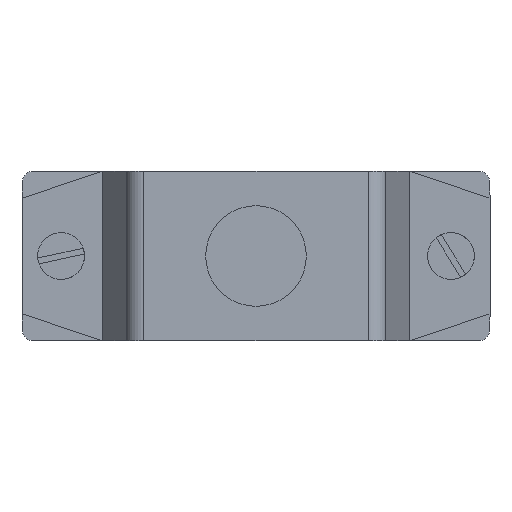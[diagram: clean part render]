
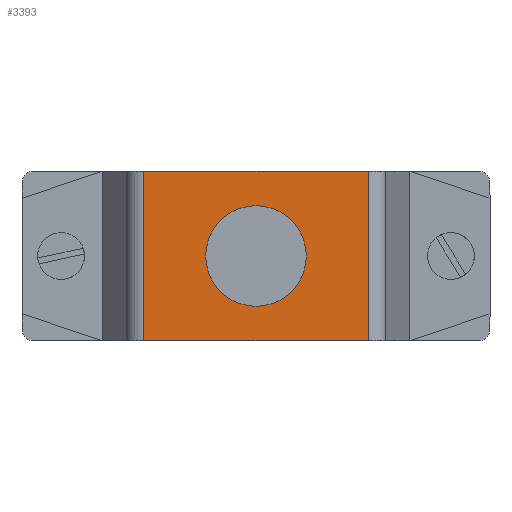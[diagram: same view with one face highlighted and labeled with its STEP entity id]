
A CAD part, front view. The second image highlights one B-rep face of the part: STEP entity #3393.
In plain terms, the highlighted planar face has unit normal (0, -1, 0).
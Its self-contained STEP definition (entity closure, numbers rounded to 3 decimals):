
#91 = CARTESIAN_POINT ( 'NONE',  ( 9.6, -29.1, 14.5 ) ) ;
#99 = CARTESIAN_POINT ( 'NONE',  ( 0., -29.1, 0. ) ) ;
#449 = LINE ( 'NONE', #6257, #1672 ) ;
#552 = FACE_BOUND ( 'NONE', #1201, .T. ) ;
#629 = VECTOR ( 'NONE', #2668, 1000. ) ;
#650 = DIRECTION ( 'NONE',  ( 0., 0., -1. ) ) ;
#747 = VERTEX_POINT ( 'NONE', #1555 ) ;
#1201 = EDGE_LOOP ( 'NONE', ( #5500, #6102 ) ) ;
#1220 = DIRECTION ( 'NONE',  ( -1., 0., 0. ) ) ;
#1310 = EDGE_LOOP ( 'NONE', ( #3784, #1868, #2394, #5894 ) ) ;
#1555 = CARTESIAN_POINT ( 'NONE',  ( 9.6, -29.1, 0. ) ) ;
#1585 = VERTEX_POINT ( 'NONE', #1702 ) ;
#1672 = VECTOR ( 'NONE', #2421, 1000. ) ;
#1687 = CARTESIAN_POINT ( 'NONE',  ( 0., -29.1, 2.95 ) ) ;
#1688 = FACE_OUTER_BOUND ( 'NONE', #1310, .T. ) ;
#1702 = CARTESIAN_POINT ( 'NONE',  ( -9.6, -29.1, 0. ) ) ;
#1799 = EDGE_CURVE ( 'NONE', #3373, #1585, #5458, .T. ) ;
#1868 = ORIENTED_EDGE ( 'NONE', *, *, #1799, .T. ) ;
#2009 = CARTESIAN_POINT ( 'NONE',  ( -9.6, -29.1, 0. ) ) ;
#2031 = EDGE_CURVE ( 'NONE', #2363, #3919, #5724, .T. ) ;
#2363 = VERTEX_POINT ( 'NONE', #1687 ) ;
#2394 = ORIENTED_EDGE ( 'NONE', *, *, #2492, .T. ) ;
#2421 = DIRECTION ( 'NONE',  ( 1., 0., 0. ) ) ;
#2426 = DIRECTION ( 'NONE',  ( 0., 0., -1. ) ) ;
#2492 = EDGE_CURVE ( 'NONE', #1585, #747, #449, .T. ) ;
#2576 = LINE ( 'NONE', #4055, #5387 ) ;
#2668 = DIRECTION ( 'NONE',  ( 0., 0., 1. ) ) ;
#2726 = CARTESIAN_POINT ( 'NONE',  ( 0., -29.1, 7.25 ) ) ;
#2955 = VECTOR ( 'NONE', #3972, 1000. ) ;
#3088 = CARTESIAN_POINT ( 'NONE',  ( 0., -29.1, 11.55 ) ) ;
#3373 = VERTEX_POINT ( 'NONE', #4942 ) ;
#3393 = ADVANCED_FACE ( 'NONE', ( #552, #1688 ), #3609, .T. ) ;
#3609 = PLANE ( 'NONE',  #4619 ) ;
#3784 = ORIENTED_EDGE ( 'NONE', *, *, #5574, .T. ) ;
#3824 = CIRCLE ( 'NONE', #4752, 4.3 ) ;
#3919 = VERTEX_POINT ( 'NONE', #3088 ) ;
#3937 = CARTESIAN_POINT ( 'NONE',  ( 0., -29.1, 7.25 ) ) ;
#3972 = DIRECTION ( 'NONE',  ( 0., 0., -1. ) ) ;
#4055 = CARTESIAN_POINT ( 'NONE',  ( -11.1, -29.1, 14.5 ) ) ;
#4163 = VERTEX_POINT ( 'NONE', #4550 ) ;
#4213 = DIRECTION ( 'NONE',  ( 0., 0., -1. ) ) ;
#4245 = EDGE_CURVE ( 'NONE', #3919, #2363, #3824, .T. ) ;
#4550 = CARTESIAN_POINT ( 'NONE',  ( 9.6, -29.1, 14.5 ) ) ;
#4578 = LINE ( 'NONE', #91, #629 ) ;
#4619 = AXIS2_PLACEMENT_3D ( 'NONE', #99, #5075, #650 ) ;
#4703 = AXIS2_PLACEMENT_3D ( 'NONE', #3937, #5415, #2426 ) ;
#4752 = AXIS2_PLACEMENT_3D ( 'NONE', #2726, #5121, #4213 ) ;
#4942 = CARTESIAN_POINT ( 'NONE',  ( -9.6, -29.1, 14.5 ) ) ;
#5075 = DIRECTION ( 'NONE',  ( 0., -1., 0. ) ) ;
#5121 = DIRECTION ( 'NONE',  ( 0., -1., 0. ) ) ;
#5387 = VECTOR ( 'NONE', #1220, 1000. ) ;
#5415 = DIRECTION ( 'NONE',  ( 0., -1., 0. ) ) ;
#5458 = LINE ( 'NONE', #2009, #2955 ) ;
#5500 = ORIENTED_EDGE ( 'NONE', *, *, #4245, .F. ) ;
#5529 = EDGE_CURVE ( 'NONE', #747, #4163, #4578, .T. ) ;
#5574 = EDGE_CURVE ( 'NONE', #4163, #3373, #2576, .T. ) ;
#5724 = CIRCLE ( 'NONE', #4703, 4.3 ) ;
#5894 = ORIENTED_EDGE ( 'NONE', *, *, #5529, .T. ) ;
#6102 = ORIENTED_EDGE ( 'NONE', *, *, #2031, .F. ) ;
#6257 = CARTESIAN_POINT ( 'NONE',  ( -11.1, -29.1, 0. ) ) ;
